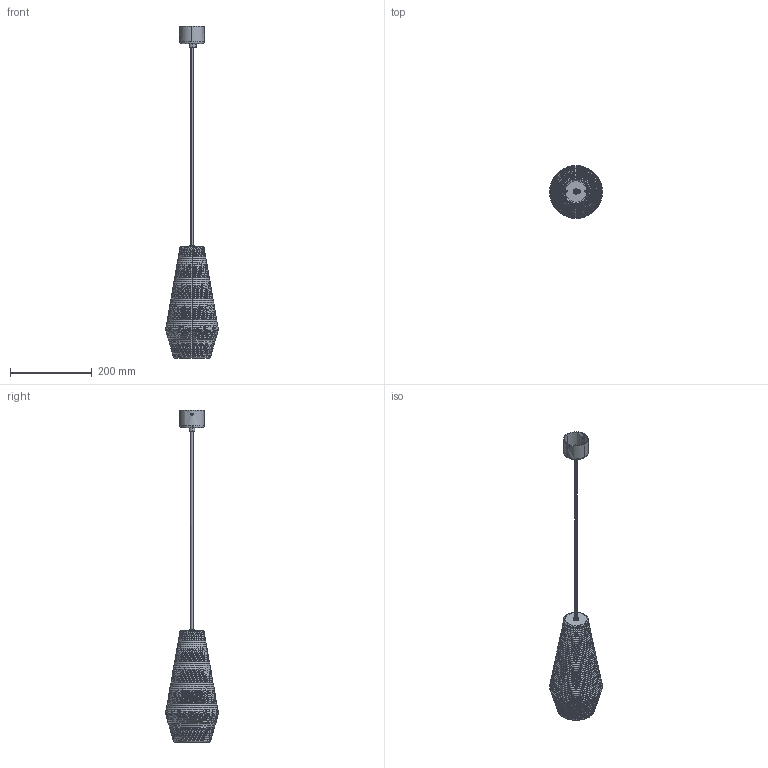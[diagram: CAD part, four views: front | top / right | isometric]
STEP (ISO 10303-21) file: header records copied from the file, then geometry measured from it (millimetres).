
FILE_DESCRIPTION(/* description */ (''),/* implementation_level */ '2;1');
FILE_NAME(/* name */ 'L097.000',/* time_stamp */ '2024-09-02T15:25:16+02:00',/* author */ (''),/* organization */ (''),/* preprocessor_version */ 'ST-DEVELOPER v16.5',/* originating_system */ '',/* authorisation */ '');
FILE_SCHEMA (('AUTOMOTIVE_DESIGN'));
Products named in the file (1): Document
Bounding box: 129.83 x 129.86 x 814.3 mm (x, y, z)
Volume: 351064.3 mm3; surface area: 306281.1 mm2
Topology: 14 solids, 14 shells, 1853 faces, 4402 edges, 2574 vertices
Faces by surface type: bspline 1474, plane 379
Entity records: 218419 total; most frequent: CARTESIAN_POINT 194097, ORIENTED_EDGE 8784, EDGE_CURVE 4392, VERTEX_POINT 2574, EDGE_LOOP 1902, ADVANCED_FACE 1853, FACE_OUTER_BOUND 1853, B_SPLINE_CURVE_WITH_KNOTS 1664
